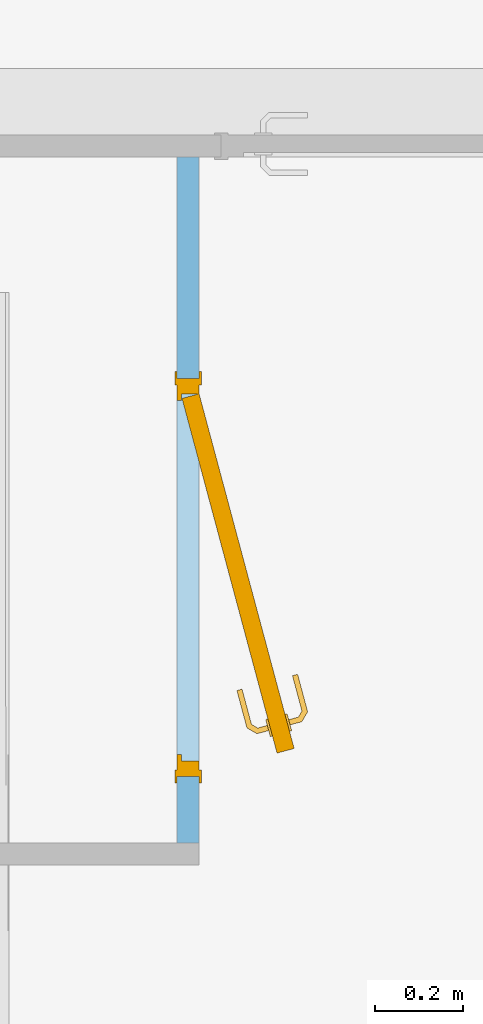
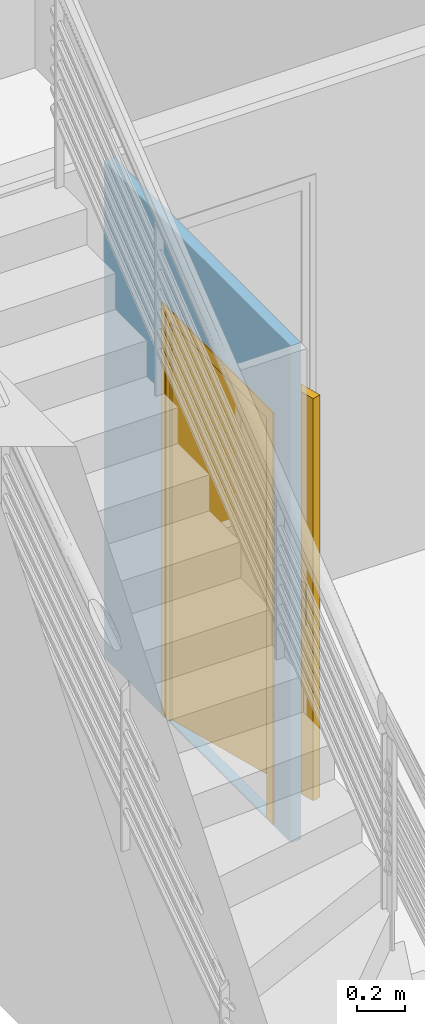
# One storey, part 6 of 9: 1 door, 1 opening, plus 1 element that does not belong to this part.
"""IFC2X3 building model written with IfcOpenShell, lengths in metres."""

from ifc_helpers import new_model, entity, si_unit, converted_unit, derived_unit, direction, frame, frame_2d, origin, place, context, subcontext, project, spatial, rectangle, extrude, faceted_brep, source, transform, mapped, material, material_list, layer, layer_set, layer_usage, type_object, type_shapes, element, fill, save


model = new_model("IFC2X3")

# Units and contexts
model_context = context("Model", 3, precision=1e-05, world=origin(), true_north=direction((6.12303176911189e-17, 1.0)))
body_context = subcontext(model_context, "Body", "Model", "MODEL_VIEW")
ifc_project = project(units=[si_unit("LENGTHUNIT", "METRE"), si_unit("AREAUNIT", "SQUARE_METRE"), si_unit("VOLUMEUNIT", "CUBIC_METRE"), converted_unit("PLANEANGLEUNIT", "DEGREE", entity("IfcRatioMeasure", 0.0174532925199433), si_unit("PLANEANGLEUNIT", "RADIAN"), dimensions=[0, 0, 0, 0, 0, 0, 0]), si_unit("MASSUNIT", "GRAM", prefix="KILO"), si_unit("TIMEUNIT", "SECOND"), si_unit("FREQUENCYUNIT", "HERTZ"), si_unit("THERMODYNAMICTEMPERATUREUNIT", "DEGREE_CELSIUS"), derived_unit("THERMALTRANSMITTANCEUNIT", [(si_unit("MASSUNIT", "GRAM", prefix="KILO"), 1), (si_unit("THERMODYNAMICTEMPERATUREUNIT", "KELVIN"), -1), (si_unit("TIMEUNIT", "SECOND"), -3)]), derived_unit("VOLUMETRICFLOWRATEUNIT", [(si_unit("LENGTHUNIT", "METRE"), 3), (si_unit("TIMEUNIT", "SECOND"), -1)]), si_unit("ELECTRICCURRENTUNIT", "AMPERE"), si_unit("ELECTRICVOLTAGEUNIT", "VOLT"), si_unit("POWERUNIT", "WATT"), si_unit("FORCEUNIT", "NEWTON", prefix="KILO"), si_unit("ILLUMINANCEUNIT", "LUX"), si_unit("LUMINOUSFLUXUNIT", "LUMEN"), si_unit("LUMINOUSINTENSITYUNIT", "CANDELA"), derived_unit("USERDEFINED", [(si_unit("MASSUNIT", "GRAM", prefix="KILO"), -1), (si_unit("LENGTHUNIT", "METRE"), -2), (si_unit("TIMEUNIT", "SECOND"), 3), (si_unit("LUMINOUSFLUXUNIT", "LUMEN"), 1)]), derived_unit("LINEARVELOCITYUNIT", [(si_unit("LENGTHUNIT", "METRE"), 1), (si_unit("TIMEUNIT", "SECOND"), -1)]), si_unit("PRESSUREUNIT", "PASCAL"), derived_unit("USERDEFINED", [(si_unit("LENGTHUNIT", "METRE"), -2), (si_unit("MASSUNIT", "GRAM", prefix="KILO"), 1), (si_unit("TIMEUNIT", "SECOND"), -2)])], contexts=[model_context])

# Site, building, storey
site_placement = place(None, origin())
site = spatial("IfcSite", under=ifc_project, at=site_placement, Name="Surface", CompositionType="ELEMENT")
building_placement = place(site_placement, origin())
building = spatial("IfcBuilding", under=site, at=building_placement, CompositionType="ELEMENT")
storey_placement = place(building_placement, origin())
storey = spatial("IfcBuildingStorey", under=building, at=storey_placement, Name="Rez de chaussée", CompositionType="ELEMENT", Elevation=0.0)

# Wall, opening, door
ifc_material_1 = material(Name="Maçonnerie - Isolant(1)")
ifc_layer = layer(ifc_material_1, 0.05)
ifc_layer_set = layer_set([ifc_layer], Name="Mur de base:Int. plâtre 50 mm")
ifc_layer_usage = layer_usage(ifc_layer_set, "AXIS2", "NEGATIVE", 0.025)
wall_type = type_object("IfcWallType", Name="Mur de base:Int. plâtre 50 mm", PredefinedType="STANDARD", material=ifc_layer_set)
wall_placement = place(storey_placement, frame((-9.97108881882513, 1.51425578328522, -0.00999999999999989), z_axis=(0.0, 0.0, 1.0), x_axis=(0.0, -1.0, 0.0)))
wall = element("IfcWallStandardCase", 1, at=wall_placement, inside=storey, type_object=wall_type, material=ifc_layer_usage, Name="Mur de base:Int. plâtre 50 mm", ObjectType="Mur de base:Int. plâtre 50 mm", context=body_context, shape_type="SweptSolid", body=[
    extrude(rectangle(XDim=1.55, YDim=0.0500000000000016, at=frame_2d((0.775000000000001, 0.0), x_axis=(-1.0, 0.0))), origin(), (0.0, 0.0, 1.0), 2.52),
])
opening_placement = place(wall_placement, frame((0.500000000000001, -0.025, 0.00999999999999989)))
opening = element("IfcOpeningElement", 2, at=opening_placement, cuts=wall, Name="Int. Simple:PP (0.83m x 2.04m):1", ObjectType="Opening", context=body_context, shape_type="SweptSolid", body=[
    extrude(rectangle(XDim=2.075, YDim=0.9, at=frame_2d((1.0375, 0.45), x_axis=(1.0, 0.0))), frame((0.0, 0.0, 0.0), z_axis=(0.0, 1.0, 0.0), x_axis=(0.0, 0.0, 1.0)), (0.0, 0.0, 1.0), 0.05),
])
ifc_material_2 = material(Name="Finition Peinture - Blanc satiné")
ifc_material_3 = material(Name="Bois - Panneau de porte")
ifc_material_4 = material(Name="Bois - Cadre de porte")
ifc_material_list_1 = material_list([ifc_material_2, ifc_material_3, ifc_material_4])
ifc_material_list_2 = material_list([ifc_material_2, ifc_material_3, ifc_material_4])
door_style = type_object("IfcDoorStyle", Name="PP (0.83m x 2.04m)", ConstructionType="NOTDEFINED", OperationType="SINGLE_SWING_LEFT", ParameterTakesPrecedence=False, Sizeable=False, material=ifc_material_list_2)
shared_shape = source(origin(), body_context, "Body", "Brep", [
    faceted_brep([(0.13253120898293, -0.201440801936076, 0.866003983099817), (0.141849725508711, -0.198943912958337, 0.870000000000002), (0.14184972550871, -0.198943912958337, 1.08), (0.132531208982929, -0.201440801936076, 1.08399601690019), (0.122531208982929, -0.204120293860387, 1.08535898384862), (0.112531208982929, -0.206799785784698, 1.08399601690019), (0.103212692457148, -0.209296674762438, 1.08), (0.103212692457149, -0.209296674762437, 0.870000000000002), (0.112531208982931, -0.206799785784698, 0.866003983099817), (0.12253120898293, -0.204120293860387, 0.86464101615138), (0.131237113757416, -0.196611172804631, 1.08399601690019), (0.140555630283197, -0.194114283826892, 1.08), (0.140555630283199, -0.194114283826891, 0.870000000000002), (0.131237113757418, -0.19661117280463, 0.866003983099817), (0.121237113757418, -0.199290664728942, 0.86464101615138), (0.111237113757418, -0.201970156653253, 0.866003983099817), (0.101918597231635, -0.204467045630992, 0.870000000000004), (0.101918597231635, -0.204467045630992, 1.08), (0.111237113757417, -0.201970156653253, 1.08399601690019), (0.121237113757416, -0.199290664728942, 1.08535898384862)], [[[0, 1, 2, 3, 4, 5, 6, 7, 8, 9]], [[10, 11, 12, 13, 14, 15, 16, 17, 18, 19]], [[16, 15, 8, 7]], [[8, 15, 14, 9]], [[14, 13, 0, 9]], [[13, 12, 1, 0]], [[2, 1, 12, 11]], [[11, 10, 3, 2]], [[3, 10, 19, 4]], [[19, 18, 5, 4]], [[18, 17, 6, 5]], [[7, 6, 17, 16]]]),
    faceted_brep([(0.120884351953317, -0.157974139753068, 0.866003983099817), (0.130202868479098, -0.155477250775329, 0.870000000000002), (0.130202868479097, -0.155477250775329, 1.08), (0.120884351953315, -0.157974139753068, 1.08399601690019), (0.110884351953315, -0.160653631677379, 1.08535898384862), (0.100884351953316, -0.163333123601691, 1.08399601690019), (0.0915658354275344, -0.16583001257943, 1.08), (0.0915658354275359, -0.165830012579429, 0.870000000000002), (0.100884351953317, -0.16333312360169, 0.866003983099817), (0.110884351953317, -0.160653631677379, 0.86464101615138), (0.119590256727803, -0.153144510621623, 1.08399601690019), (0.128908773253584, -0.150647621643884, 1.08), (0.128908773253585, -0.150647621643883, 0.870000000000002), (0.119590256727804, -0.153144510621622, 0.866003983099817), (0.109590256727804, -0.155824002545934, 0.86464101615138), (0.0995902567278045, -0.158503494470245, 0.866003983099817), (0.0902717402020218, -0.161000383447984, 0.870000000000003), (0.0902717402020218, -0.161000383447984, 1.08), (0.099590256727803, -0.158503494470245, 1.08399601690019), (0.109590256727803, -0.155824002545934, 1.08535898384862)], [[[0, 1, 2, 3, 4, 5, 6, 7, 8, 9]], [[10, 11, 12, 13, 14, 15, 16, 17, 18, 19]], [[11, 10, 3, 2]], [[3, 10, 19, 4]], [[19, 18, 5, 4]], [[18, 17, 6, 5]], [[7, 6, 17, 16]], [[16, 15, 8, 7]], [[8, 15, 14, 9]], [[14, 13, 0, 9]], [[13, 12, 1, 0]], [[2, 1, 12, 11]]]),
    faceted_brep([(0.120574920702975, -0.204644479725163, 1.00778044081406), (0.124487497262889, -0.20359610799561, 1.00778044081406), (0.128326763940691, -0.202567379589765, 1.00699999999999), (0.128326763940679, -0.202567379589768, 0.993000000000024), (0.124487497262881, -0.203596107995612, 0.992219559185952), (0.120574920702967, -0.204644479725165, 0.99221955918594), (0.116735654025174, -0.205673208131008, 0.992999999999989), (0.116735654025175, -0.205673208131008, 1.007), (0.12389224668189, -0.232381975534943, 1.007), (0.127305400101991, -0.229762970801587, 1.00778044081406), (0.146961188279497, -0.241111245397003, 1.00778044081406), (0.147533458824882, -0.236764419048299, 1.00778044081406), (0.130783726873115, -0.227093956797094, 1.00778044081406), (0.134196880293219, -0.224474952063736, 1.007), (0.134196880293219, -0.224474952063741, 0.993000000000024), (0.130783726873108, -0.227093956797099, 0.992219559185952), (0.147533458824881, -0.236764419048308, 0.992219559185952), (0.146961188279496, -0.241111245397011, 0.99221955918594), (0.127305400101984, -0.229762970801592, 0.99221955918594), (0.123892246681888, -0.232381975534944, 0.992999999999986), (0.146399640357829, -0.245376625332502, 1.007), (0.148095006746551, -0.232499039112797, 1.007), (0.148095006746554, -0.232499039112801, 0.993000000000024), (0.146399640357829, -0.245376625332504, 0.992999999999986), (0.231054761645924, -0.222693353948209, 0.992999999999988), (0.230026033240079, -0.218854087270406, 0.99221955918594), (0.228977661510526, -0.214941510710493, 0.992219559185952), (0.227948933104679, -0.211102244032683, 0.993000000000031), (0.227948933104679, -0.211102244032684, 1.007), (0.228977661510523, -0.214941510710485, 1.00778044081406), (0.230026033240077, -0.218854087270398, 1.00778044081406), (0.231054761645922, -0.222693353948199, 1.00699999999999), (0.184969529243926, -0.235041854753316, 1.007), (0.188779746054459, -0.227809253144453, 1.0078786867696), (0.188021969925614, -0.22180064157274, 1.007), (0.188021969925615, -0.221800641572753, 0.993000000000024), (0.188779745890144, -0.227809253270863, 0.992121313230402), (0.184969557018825, -0.235041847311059, 0.992999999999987)], [[[0, 1, 2, 3, 4, 5, 6, 7]], [[8, 9, 0, 7]], [[9, 10, 11, 12, 1, 0]], [[12, 13, 2, 1]], [[3, 2, 13, 14]], [[14, 15, 4, 3]], [[15, 16, 17, 18, 5, 4]], [[18, 19, 6, 5]], [[7, 6, 19, 8]], [[20, 10, 9, 8]], [[11, 21, 13, 12]], [[14, 13, 21, 22]], [[22, 16, 15, 14]], [[17, 23, 19, 18]], [[8, 19, 23, 20]], [[24, 25, 26, 27, 28, 29, 30, 31]], [[32, 30, 33]], [[31, 30, 32]], [[10, 20, 32]], [[33, 34, 11]], [[21, 11, 34]], [[34, 29, 28]], [[30, 29, 33]], [[29, 34, 33]], [[10, 32, 33]], [[10, 33, 11]], [[22, 21, 34, 28, 27, 35]], [[35, 26, 36]], [[37, 36, 25]], [[22, 35, 16]], [[35, 27, 26]], [[24, 37, 25]], [[23, 17, 37]], [[37, 17, 36]], [[17, 16, 36]], [[16, 35, 36]], [[25, 36, 26]], [[20, 23, 37, 24, 31, 32]]]),
    faceted_brep([(0.107633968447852, -0.156348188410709, 1.00778044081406), (0.103794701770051, -0.157376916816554, 1.007), (0.103794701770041, -0.157376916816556, 0.992999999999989), (0.107633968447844, -0.156348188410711, 0.99221955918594), (0.111546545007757, -0.155299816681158, 0.992219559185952), (0.115385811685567, -0.154271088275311, 0.993000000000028), (0.115385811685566, -0.154271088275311, 1.007), (0.111546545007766, -0.155299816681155, 1.00778044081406), (0.109566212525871, -0.132552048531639, 0.993000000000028), (0.109566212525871, -0.132552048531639, 1.007), (0.105300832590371, -0.131990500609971, 1.00778044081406), (0.11506852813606, -0.115072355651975, 1.00778044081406), (0.112399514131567, -0.111594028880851, 1.00778044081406), (0.100954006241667, -0.131418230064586, 1.00778044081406), (0.0966886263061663, -0.130856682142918, 1.007), (0.096688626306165, -0.130856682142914, 0.992999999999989), (0.100954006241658, -0.131418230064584, 0.99221955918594), (0.112399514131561, -0.111594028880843, 0.99221955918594), (0.115068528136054, -0.115072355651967, 0.992219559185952), (0.105300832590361, -0.13199050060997, 0.992219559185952), (0.117687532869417, -0.118485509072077, 0.993000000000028), (0.117687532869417, -0.118485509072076, 1.007), (0.10978050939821, -0.108180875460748, 1.007), (0.109780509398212, -0.108180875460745, 0.992999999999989), (0.197434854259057, -0.0971172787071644, 0.993000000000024), (0.196406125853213, -0.0932780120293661, 0.992219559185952), (0.19535775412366, -0.0893654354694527, 0.99221955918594), (0.194329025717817, -0.0855261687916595, 0.992999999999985), (0.194329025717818, -0.0855261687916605, 1.007), (0.195357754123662, -0.089365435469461, 1.00778044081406), (0.196406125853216, -0.0932780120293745, 1.00778044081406), (0.19743485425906, -0.0971172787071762, 1.007), (0.1575611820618, -0.107801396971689, 0.993000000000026), (0.157561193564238, -0.107801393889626, 1.007), (0.155213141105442, -0.102218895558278, 1.0078786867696), (0.148350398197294, -0.097846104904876, 1.007), (0.148350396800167, -0.097846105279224, 0.992999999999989), (0.155213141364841, -0.102218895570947, 0.992121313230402)], [[[0, 1, 2, 3, 4, 5, 6, 7]], [[6, 5, 8, 9]], [[9, 10, 7, 6]], [[10, 11, 12, 13, 0, 7]], [[13, 14, 1, 0]], [[2, 1, 14, 15]], [[15, 16, 3, 2]], [[16, 17, 18, 19, 4, 3]], [[19, 8, 5, 4]], [[9, 8, 20, 21]], [[21, 11, 10, 9]], [[12, 22, 14, 13]], [[15, 14, 22, 23]], [[23, 17, 16, 15]], [[18, 20, 8, 19]], [[24, 25, 26, 27, 28, 29, 30, 31]], [[21, 20, 32, 24, 31, 33]], [[33, 30, 34]], [[35, 34, 29]], [[21, 33, 11]], [[33, 31, 30]], [[28, 35, 29]], [[22, 12, 35]], [[35, 12, 34]], [[12, 11, 34]], [[11, 33, 34]], [[29, 34, 30]], [[22, 35, 28, 27, 36, 23]], [[36, 26, 37]], [[27, 26, 36]], [[17, 23, 36]], [[37, 32, 18]], [[20, 18, 32]], [[32, 25, 24]], [[26, 25, 37]], [[25, 32, 37]], [[17, 36, 37]], [[17, 37, 18]]]),
    faceted_brep([(0.0529288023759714, -0.176182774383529, 2.04), (0.854647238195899, 0.0386370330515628, 2.04), (0.854647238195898, 0.0386370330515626, 0.0), (0.0529288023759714, -0.176182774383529, 0.0), (0.0632815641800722, -0.214819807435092, 2.04), (0.0632815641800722, -0.214819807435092, 0.0), (0.864999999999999, 0.0, 0.0), (0.865, 0.0, 2.04)], [[[0, 1, 2, 3]], [[4, 5, 6, 7]], [[1, 0, 4, 7]], [[2, 1, 7, 6]], [[3, 2, 6, 5]], [[0, 3, 5, 4]]]),
    faceted_brep([(0.0, 0.0, 0.0), (0.0, 0.050000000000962, 0.0), (0.0499999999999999, 0.050000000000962, 0.0), (0.0499999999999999, 0.040000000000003, 0.0), (0.0349999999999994, 0.040000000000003, 0.0), (0.0349999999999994, 0.0, 0.0), (0.0, 0.0, 2.07500000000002), (0.0, 0.050000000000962, 2.07500000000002), (0.900000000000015, 0.050000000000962, 2.07500000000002), (0.900000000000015, 0.050000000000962, 0.0), (0.85, 0.050000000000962, 0.0), (0.85, 0.050000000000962, 2.025), (0.0500000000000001, 0.050000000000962, 2.025), (0.05, 0.040000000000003, 2.025), (0.85, 0.040000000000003, 2.025), (0.85, 0.040000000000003, 0.0), (0.865, 0.040000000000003, 0.0), (0.865, 0.040000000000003, 2.04), (0.0349999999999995, 0.040000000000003, 2.04), (0.0349999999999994, 0.0, 2.04), (0.865, 0.0, 2.04), (0.865, 0.0, 0.0), (0.900000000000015, 0.0, 0.0), (0.900000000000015, 0.0, 2.07500000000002)], [[[0, 1, 2, 3, 4, 5]], [[1, 0, 6, 7]], [[2, 1, 7, 8, 9, 10, 11, 12]], [[3, 2, 12, 13]], [[4, 3, 13, 14, 15, 16, 17, 18]], [[5, 4, 18, 19]], [[0, 5, 19, 20, 21, 22, 23, 6]], [[8, 23, 22, 9]], [[22, 21, 16, 15, 10, 9]], [[14, 11, 10, 15]], [[20, 17, 16, 21]], [[7, 6, 23, 8]], [[13, 12, 11, 14]], [[19, 18, 17, 20]]]),
    faceted_brep([(0.0149999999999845, 0.050000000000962, 0.0), (-0.0150000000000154, 0.050000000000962, 0.0), (-0.0150000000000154, 0.055000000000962, 0.0), (0.0149999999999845, 0.055000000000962, 0.0), (0.0149999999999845, 0.050000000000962, 2.06000000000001), (0.884999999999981, 0.050000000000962, 2.06000000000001), (0.88499999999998, 0.050000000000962, 0.0), (0.91499999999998, 0.050000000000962, 0.0), (0.91499999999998, 0.050000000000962, 2.09000000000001), (-0.0150000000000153, 0.050000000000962, 2.09000000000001), (-0.0150000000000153, 0.055000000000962, 2.09000000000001), (0.91499999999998, 0.055000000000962, 2.09000000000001), (0.91499999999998, 0.055000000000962, 0.0), (0.88499999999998, 0.055000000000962, 0.0), (0.88499999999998, 0.055000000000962, 2.06000000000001), (0.0149999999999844, 0.055000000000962, 2.06000000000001)], [[[0, 1, 2, 3]], [[1, 0, 4, 5, 6, 7, 8, 9]], [[2, 1, 9, 10]], [[3, 2, 10, 11, 12, 13, 14, 15]], [[0, 3, 15, 4]], [[6, 13, 12, 7]], [[5, 14, 13, 6]], [[11, 8, 7, 12]], [[10, 9, 8, 11]], [[4, 15, 14, 5]]]),
    faceted_brep([(-0.0150000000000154, -0.005, 0.0), (0.0149999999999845, -0.005, 0.0), (0.0149999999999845, -0.005, 2.06000000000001), (0.884999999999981, -0.005, 2.06000000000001), (0.88499999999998, -0.005, 0.0), (0.91499999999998, -0.005, 0.0), (0.91499999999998, -0.005, 2.09000000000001), (-0.0150000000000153, -0.005, 2.09000000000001), (-0.0150000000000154, 0.0, 0.0), (-0.0150000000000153, 0.0, 2.09000000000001), (0.0149999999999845, 0.0, 0.0), (0.91499999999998, 0.0, 2.09000000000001), (0.91499999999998, 0.0, 0.0), (0.88499999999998, 0.0, 0.0), (0.88499999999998, 0.0, 2.06000000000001), (0.0149999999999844, 0.0, 2.06000000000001)], [[[0, 1, 2, 3, 4, 5, 6, 7]], [[8, 0, 7, 9]], [[10, 8, 9, 11, 12, 13, 14, 15]], [[1, 10, 15, 2]], [[3, 14, 13, 4]], [[11, 6, 5, 12]], [[9, 7, 6, 11]], [[2, 15, 14, 3]], [[4, 13, 12, 5]], [[1, 0, 8, 10]]]),
])
type_shapes(door_style, [shared_shape])
door_placement = place(opening_placement, frame((0.9, 0.0500000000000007, 0.0), z_axis=(0.0, 0.0, 1.0), x_axis=(-1.0, 0.0, 0.0)))
door = element("IfcDoor", 3, at=door_placement, inside=storey, type_object=door_style, material=ifc_material_list_1, Name="Int. Simple:PP (0.83m x 2.04m)", ObjectType="PP (0.83m x 2.04m)", OverallHeight=2.075, OverallWidth=0.9, context=body_context, shape_type="MappedRepresentation", body=[
    mapped(shared_shape, transform((0.0, 0.0, 0.0), scale=1.0)),
])
fill(opening, door)

save(model, "model.ifc")
